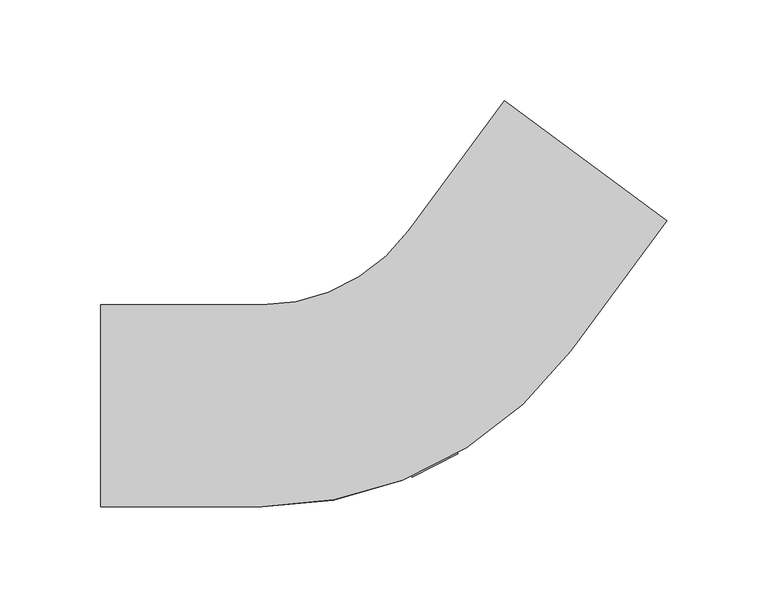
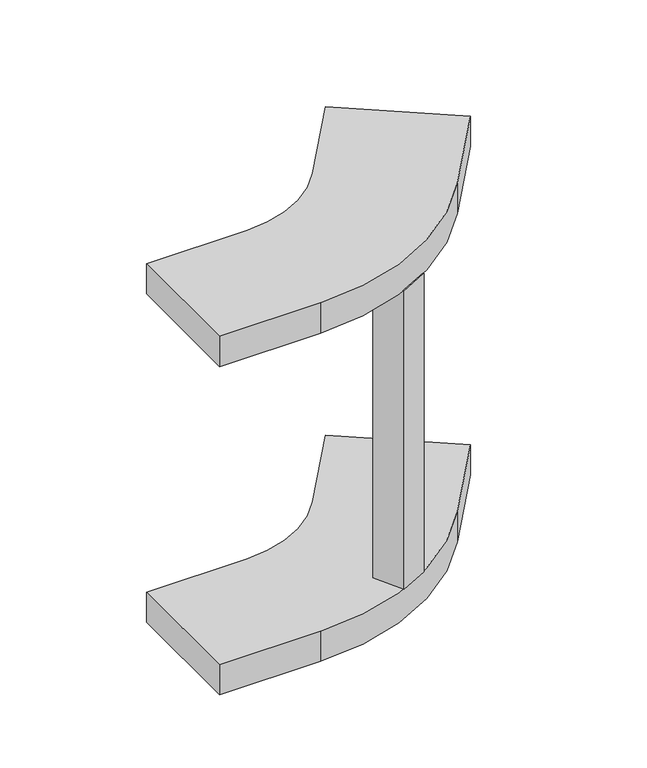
"""IFC4 building model written with IfcOpenShell, lengths in millimetres: cable carrier fitting geometry, Common_はしご垂直内側曲げ : 03 強電_低圧."""

from ifc_helpers import new_model, si_unit, point, frame, frame_2d, origin, place, context, project, spatial, polyline, circle_curve, trimmed, segment, composite_curve, outline, extrude, source, transform, mapped, element, save


def cable_carrier_fitting_d686a4da(model_context):
    return source(origin(), model_context, "Body", "SweptSolid", [
        extrude(outline(polyline([(14.8416377, -1.219379), (26.2870618, -23.8945255), (3.6119153, -35.3399495), (-7.8335087, -12.6648031), (14.8416377, -1.219379)])), frame((0.0, 0.0, -124.6), z_axis=(0.0, 0.0, 1.0), x_axis=(1.0, 0.0, 0.0)), (0.0, 0.0, 1.0), 249.2),
        extrude(outline(composite_curve([segment(polyline([(-150.6658882, -50.0), (-150.6658882, 50.0), (-70.6658882, 50.0)]), True, "CONTINUOUS"), segment(trimmed(circle_curve(frame_2d((-70.6658882, 140.0)), 90.0), [point((-70.6658882, 50.0))], [point((1.7421967, 86.5484402))], True, "CARTESIAN"), True, "CONTINUOUS"), segment(polyline([(1.7421967, 86.5484402), (49.2546943, 150.9111824), (129.7081219, 91.5205604), (82.1956244, 27.1578183)]), True, "CONTINUOUS"), segment(trimmed(circle_curve(frame_2d((-70.6658882, 140.0)), 190.0), [point((82.1956244, 27.1578183))], [point((-70.6658882, -50.0))], False, "CARTESIAN"), True, "CONTINUOUS"), segment(polyline([(-70.6658882, -50.0), (-150.6658882, -50.0)]), True, "CONTINUOUS")], self_intersect=False)), frame((0.0, 0.0, 124.6), z_axis=(0.0, 0.0, 1.0), x_axis=(1.0, 0.0, 0.0)), (0.0, 0.0, 1.0), 25.4),
        extrude(outline(composite_curve([segment(polyline([(-150.6658882, -50.0), (-150.6658882, 50.0), (-70.6658882, 50.0)]), True, "CONTINUOUS"), segment(trimmed(circle_curve(frame_2d((-70.6658882, 140.0)), 90.0), [point((-70.6658882, 50.0))], [point((1.7421967, 86.5484402))], True, "CARTESIAN"), True, "CONTINUOUS"), segment(polyline([(1.7421967, 86.5484402), (49.2546943, 150.9111824), (129.7081219, 91.5205604), (82.1956244, 27.1578183)]), True, "CONTINUOUS"), segment(trimmed(circle_curve(frame_2d((-70.6658882, 140.0)), 190.0), [point((82.1956244, 27.1578183))], [point((-70.6658882, -50.0))], False, "CARTESIAN"), True, "CONTINUOUS"), segment(polyline([(-70.6658882, -50.0), (-150.6658882, -50.0)]), True, "CONTINUOUS")], self_intersect=False)), frame((0.0, 0.0, -150.0), z_axis=(0.0, 0.0, 1.0), x_axis=(1.0, 0.0, 0.0)), (0.0, 0.0, 1.0), 25.4),
    ])


if __name__ == "__main__":
    model = new_model("IFC4")
    model_context = context("Model", 3, world=origin())
    ifc_project = project(units=[si_unit("LENGTHUNIT", "METRE", prefix="MILLI")], contexts=[model_context])
    site = spatial("IfcSite", under=ifc_project)
    building = spatial("IfcBuilding", under=site)
    placement = place(None, origin())
    cable_carrier_fitting_shape = cable_carrier_fitting_d686a4da(model_context)
    element("IfcCableCarrierFitting", 1, ObjectType="Common_はしご垂直内側曲げ : 03 強電_低圧", at=placement, inside=building, context=model_context, shape_type="MappedRepresentation", body=[
        mapped(cable_carrier_fitting_shape, transform((0.0, 0.0, 0.0), x_axis=(1.0, 0.0, 0.0), y_axis=(0.0, 1.0, 0.0), z_axis=(0.0, 0.0, 1.0))),
    ])
    save(model, "model.ifc")
